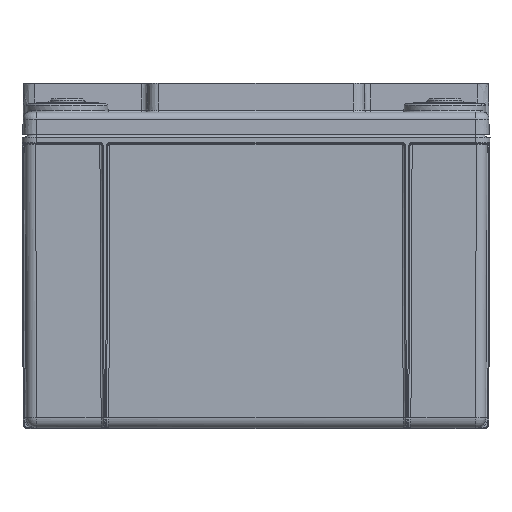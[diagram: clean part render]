
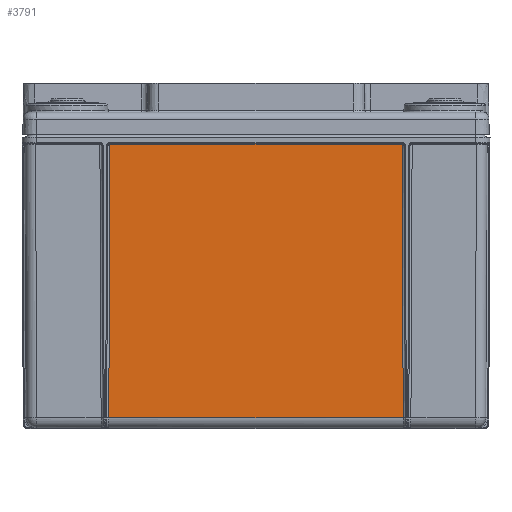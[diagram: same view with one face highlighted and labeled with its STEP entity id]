
A CAD part, top view. The second image highlights one B-rep face of the part: STEP entity #3791.
In plain terms, the highlighted planar face has unit normal (0, -0.009, 1).
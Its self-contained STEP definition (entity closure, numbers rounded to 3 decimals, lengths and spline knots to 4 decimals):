
#3160 = LINE ( 'NONE', #85836, #79225 ) ;
#3791 = ADVANCED_FACE ( 'NONE', ( #10111 ), #37688, .T. ) ;
#5197 = VECTOR ( 'NONE', #78129, 39.3701 ) ;
#6953 = CARTESIAN_POINT ( 'NONE',  ( -2.1498, 1.8901, 1.5795 ) ) ;
#9885 = ORIENTED_EDGE ( 'NONE', *, *, #18964, .T. ) ;
#10111 = FACE_OUTER_BOUND ( 'NONE', #26264, .T. ) ;
#17159 = CARTESIAN_POINT ( 'NONE',  ( 2.1498, 1.8901, 1.5795 ) ) ;
#18964 = EDGE_CURVE ( 'NONE', #37541, #55220, #74127, .T. ) ;
#22395 = VECTOR ( 'NONE', #30262, 39.3701 ) ;
#23896 = VECTOR ( 'NONE', #68736, 39.3701 ) ;
#26264 = EDGE_LOOP ( 'NONE', ( #46477, #81738, #9885, #42143 ) ) ;
#29353 = CARTESIAN_POINT ( 'NONE',  ( -2.1673, -2.1345, 1.5443 ) ) ;
#29887 = EDGE_CURVE ( 'NONE', #46629, #37541, #33534, .T. ) ;
#30262 = DIRECTION ( 'NONE',  ( -0.004, 1., 0.009 ) ) ;
#33534 = LINE ( 'NONE', #41235, #23896 ) ;
#34708 = EDGE_CURVE ( 'NONE', #55220, #40163, #3160, .T. ) ;
#37541 = VERTEX_POINT ( 'NONE', #6953 ) ;
#37688 = PLANE ( 'NONE',  #67149 ) ;
#40163 = VERTEX_POINT ( 'NONE', #59411 ) ;
#41235 = CARTESIAN_POINT ( 'NONE',  ( -3.3835, 1.8901, 1.5795 ) ) ;
#42143 = ORIENTED_EDGE ( 'NONE', *, *, #34708, .T. ) ;
#45805 = DIRECTION ( 'NONE',  ( 0., -0.009, 1. ) ) ;
#46477 = ORIENTED_EDGE ( 'NONE', *, *, #47459, .T. ) ;
#46629 = VERTEX_POINT ( 'NONE', #17159 ) ;
#47459 = EDGE_CURVE ( 'NONE', #40163, #46629, #81845, .T. ) ;
#55220 = VERTEX_POINT ( 'NONE', #71033 ) ;
#59338 = CARTESIAN_POINT ( 'NONE',  ( -3.3835, -2.289, 1.543 ) ) ;
#59411 = CARTESIAN_POINT ( 'NONE',  ( 2.1673, -2.1344, 1.5443 ) ) ;
#64143 = DIRECTION ( 'NONE',  ( 1., 0., 0. ) ) ;
#67149 = AXIS2_PLACEMENT_3D ( 'NONE', #59338, #45805, #79222 ) ;
#68736 = DIRECTION ( 'NONE',  ( -1., 0., 0. ) ) ;
#71033 = CARTESIAN_POINT ( 'NONE',  ( -2.1673, -2.1344, 1.5443 ) ) ;
#74127 = LINE ( 'NONE', #29353, #5197 ) ;
#78129 = DIRECTION ( 'NONE',  ( -0.004, -1., -0.009 ) ) ;
#79222 = DIRECTION ( 'NONE',  ( 0., -1., -0.009 ) ) ;
#79225 = VECTOR ( 'NONE', #64143, 39.3701 ) ;
#81738 = ORIENTED_EDGE ( 'NONE', *, *, #29887, .T. ) ;
#81845 = LINE ( 'NONE', #82298, #22395 ) ;
#82298 = CARTESIAN_POINT ( 'NONE',  ( 2.1679, -2.2648, 1.5432 ) ) ;
#85836 = CARTESIAN_POINT ( 'NONE',  ( 2.199, -2.1344, 1.5443 ) ) ;
